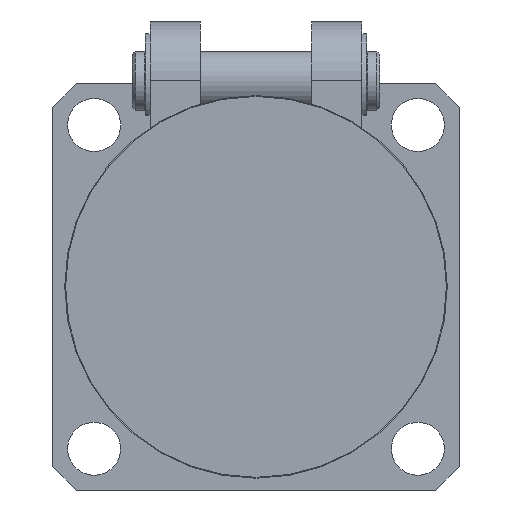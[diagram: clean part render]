
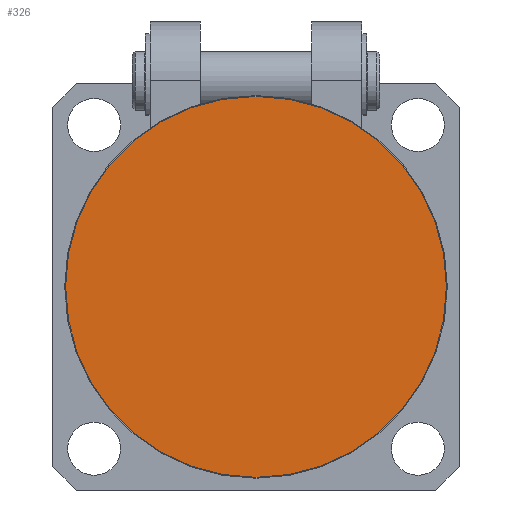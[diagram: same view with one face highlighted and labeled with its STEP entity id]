
A CAD part, front view. The second image highlights one B-rep face of the part: STEP entity #326.
In plain terms, the highlighted planar face has unit normal (0, -1, 0).
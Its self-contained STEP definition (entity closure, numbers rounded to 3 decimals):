
#326 = ADVANCED_FACE( '', ( #664 ), #665, .T. );
#664 = FACE_OUTER_BOUND( '', #1267, .T. );
#665 = PLANE( '', #1268 );
#1267 = EDGE_LOOP( '', ( #2147 ) );
#1268 = AXIS2_PLACEMENT_3D( '', #2148, #2149, #2150 );
#2147 = ORIENTED_EDGE( '', *, *, #3783, .T. );
#2148 = CARTESIAN_POINT( '', ( 0., -63.5, 0. ) );
#2149 = DIRECTION( '', ( 0., -1., 0. ) );
#2150 = DIRECTION( '', ( 1., 0., 0. ) );
#3783 = EDGE_CURVE( '', #4467, #4467, #4468, .T. );
#4467 = VERTEX_POINT( '', #5650 );
#4468 = CIRCLE( '', #5651, 32.35 );
#5650 = CARTESIAN_POINT( '', ( -32.35, -63.5, 0. ) );
#5651 = AXIS2_PLACEMENT_3D( '', #6926, #6927, #6928 );
#6926 = CARTESIAN_POINT( '', ( 0., -63.5, 0. ) );
#6927 = DIRECTION( '', ( 0., -1., 0. ) );
#6928 = DIRECTION( '', ( -1., 0., 0. ) );
